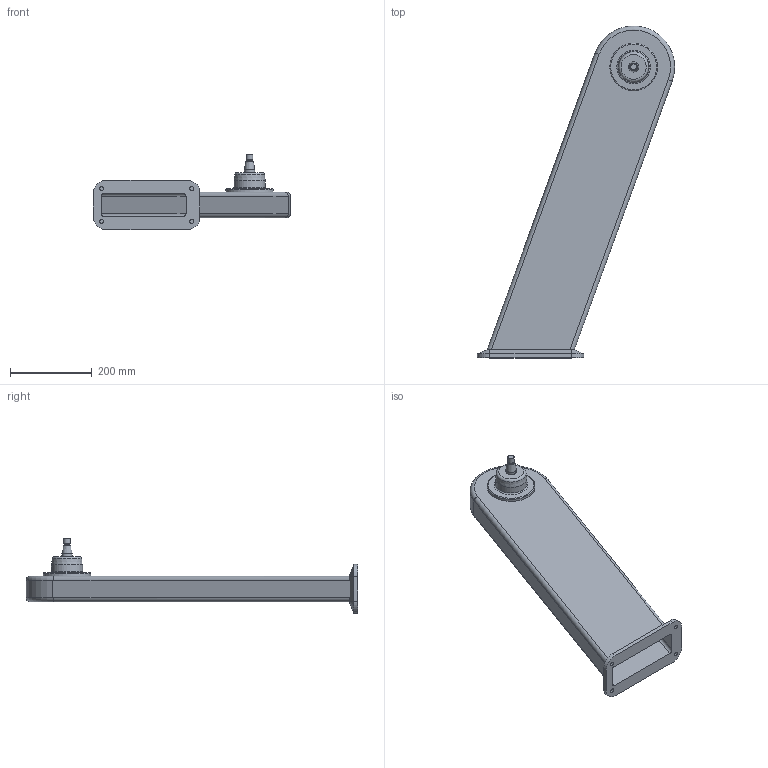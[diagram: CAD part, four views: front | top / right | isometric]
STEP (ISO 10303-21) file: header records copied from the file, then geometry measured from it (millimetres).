
FILE_DESCRIPTION (( 'STEP AP214' ), '1' );
FILE_NAME ('WP800_H710_+20.STEP', '2014-06-26T09:19:54', ( '' ), ( '' ), 'SwSTEP 2.0', 'SolidWorks 2014', '' );
FILE_SCHEMA (( 'AUTOMOTIVE_DESIGN' ));
Length unit declared in the file: millimetre
Products named in the file (1): WP800_H710_+20
Bounding box: 481.14 x 810 x 183.29 mm (x, y, z)
Volume: 1829914.2 mm3; surface area: 898466 mm2
Topology: 1 solids, 1 shells, 69 faces, 147 edges, 89 vertices
Faces by surface type: plane 27, cylinder 25, cone 10, torus 7
Full cylindrical faces by diameter (mm): 10 x4, 14.5 x1, 16 x1, 25 x3, 76 x1, 116 x1
Entity records: 1780 total; most frequent: CARTESIAN_POINT 322, DIRECTION 312, ORIENTED_EDGE 254, AXIS2_PLACEMENT_3D 127, EDGE_CURVE 127, EDGE_LOOP 100, VERTEX_POINT 89, FACE_OUTER_BOUND 83
